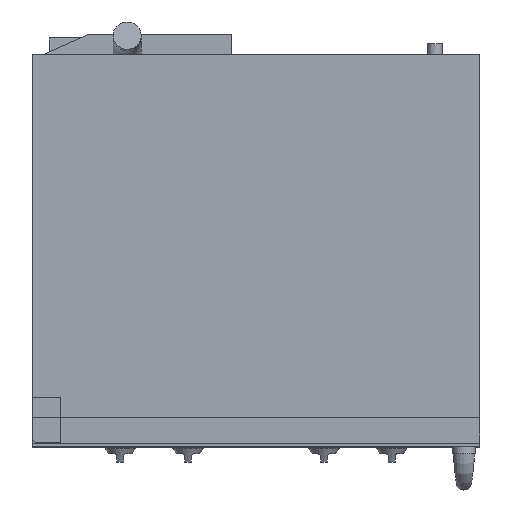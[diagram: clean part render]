
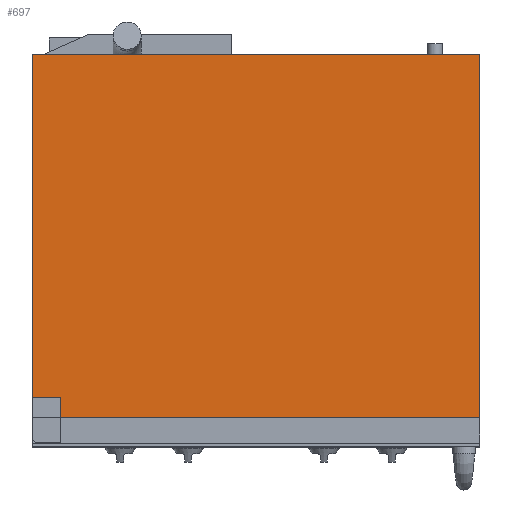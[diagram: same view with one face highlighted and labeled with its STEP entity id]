
A CAD part, top view. The second image highlights one B-rep face of the part: STEP entity #697.
In plain terms, the highlighted planar face has unit normal (0, 0, 1).
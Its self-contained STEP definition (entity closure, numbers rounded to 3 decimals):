
#697=ADVANCED_FACE('',(#1034),#856,.F.);
#856=PLANE('',#3870);
#1034=FACE_OUTER_BOUND('',#1267,.T.);
#1267=EDGE_LOOP('',(#2575,#2576,#2577,#2578,#2579,#2580));
#1544=LINE('',#6475,#1836);
#1549=LINE('',#6485,#1841);
#1550=LINE('',#6488,#1842);
#1551=LINE('',#6489,#1843);
#1552=LINE('',#6491,#1844);
#1553=LINE('',#6493,#1845);
#1836=VECTOR('',#4621,1.);
#1841=VECTOR('',#4628,1.);
#1842=VECTOR('',#4629,1.);
#1843=VECTOR('',#4630,1.);
#1844=VECTOR('',#4631,1.);
#1845=VECTOR('',#4632,1.);
#2575=ORIENTED_EDGE('',*,*,#3457,.F.);
#2576=ORIENTED_EDGE('',*,*,#3458,.F.);
#2577=ORIENTED_EDGE('',*,*,#3452,.T.);
#2578=ORIENTED_EDGE('',*,*,#3459,.T.);
#2579=ORIENTED_EDGE('',*,*,#3460,.F.);
#2580=ORIENTED_EDGE('',*,*,#3461,.F.);
#3043=VERTEX_POINT('',#6474);
#3044=VERTEX_POINT('',#6476);
#3048=VERTEX_POINT('',#6486);
#3049=VERTEX_POINT('',#6487);
#3050=VERTEX_POINT('',#6490);
#3051=VERTEX_POINT('',#6492);
#3452=EDGE_CURVE('',#3044,#3043,#1544,.T.);
#3457=EDGE_CURVE('',#3048,#3049,#1549,.T.);
#3458=EDGE_CURVE('',#3044,#3048,#1550,.T.);
#3459=EDGE_CURVE('',#3043,#3050,#1551,.T.);
#3460=EDGE_CURVE('',#3051,#3050,#1552,.T.);
#3461=EDGE_CURVE('',#3049,#3051,#1553,.T.);
#3870=AXIS2_PLACEMENT_3D('',#6494,#4633,#4634);
#4621=DIRECTION('',(1.,0.,0.));
#4628=DIRECTION('',(-1.,0.,0.));
#4629=DIRECTION('',(0.,1.,0.));
#4630=DIRECTION('',(0.,1.,0.));
#4631=DIRECTION('',(1.,0.,0.));
#4632=DIRECTION('',(0.,1.,0.));
#4633=DIRECTION('',(0.,0.,-1.));
#4634=DIRECTION('',(1.,0.,0.));
#6474=CARTESIAN_POINT('',(3153.838,-86.815,263.803));
#6475=CARTESIAN_POINT('',(2355.838,-86.815,263.803));
#6476=CARTESIAN_POINT('',(2406.338,-86.815,263.803));
#6485=CARTESIAN_POINT('',(2406.338,-50.815,263.803));
#6486=CARTESIAN_POINT('',(2406.338,-50.815,263.803));
#6487=CARTESIAN_POINT('',(2355.838,-50.815,263.803));
#6488=CARTESIAN_POINT('',(2406.338,-132.065,263.803));
#6489=CARTESIAN_POINT('',(3153.838,-86.815,263.803));
#6490=CARTESIAN_POINT('',(3153.838,560.685,263.803));
#6491=CARTESIAN_POINT('',(2355.838,560.685,263.803));
#6492=CARTESIAN_POINT('',(2355.838,560.685,263.803));
#6493=CARTESIAN_POINT('',(2355.838,-86.815,263.803));
#6494=CARTESIAN_POINT('',(2355.838,-86.815,263.803));
